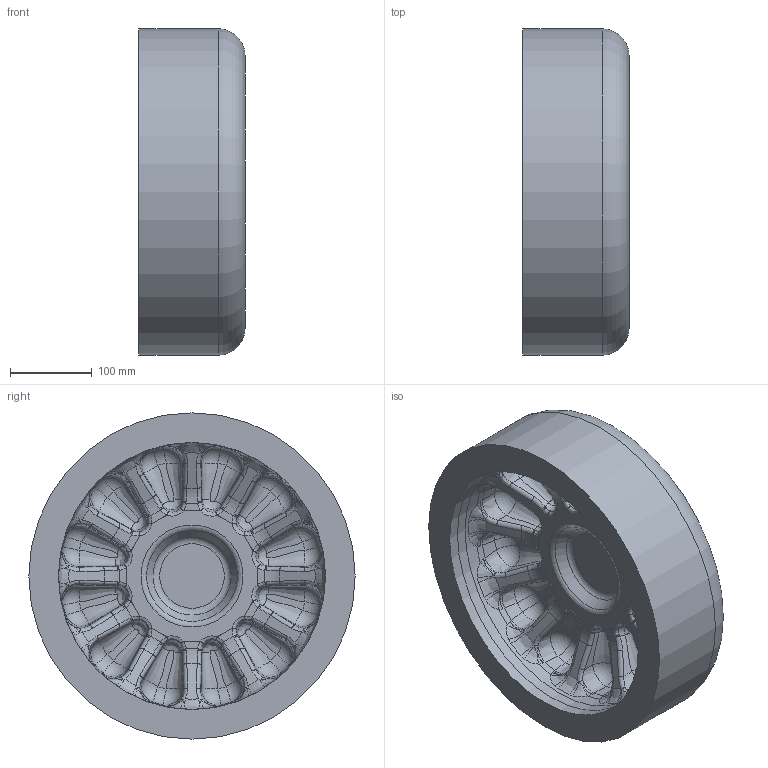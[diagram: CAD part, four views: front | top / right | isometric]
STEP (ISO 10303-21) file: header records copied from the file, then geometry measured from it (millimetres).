
FILE_DESCRIPTION(/* description */ ('Unknown'),/* implementation_level */ '2;1');
FILE_NAME(/* name */ 'CAP400C',/* time_stamp */ '2022-05-16T09:31:55+02:00',/* author */ ('Unknown'),/* organization */ ('Unknown'),/* preprocessor_version */ 'ST-DEVELOPER v18.1',/* originating_system */ 'Solid Edge',/* authorisation */ 'Unknown');
FILE_SCHEMA (('AUTOMOTIVE_DESIGN {1 0 10303 214 3 1 1}'));
Length unit declared in the file: millimetre
Products named in the file (1): CAP400C
Bounding box: 130 x 400 x 400 mm (x, y, z)
Volume: 9643567.5 mm3; surface area: 501753.3 mm2
Topology: 1 solids, 1 shells, 516 faces, 1195 edges, 635 vertices
Faces by surface type: bspline 324, plane 64, cylinder 62, torus 28, sphere 24, cone 14
Full cylindrical faces by diameter (mm): 327.4 x1, 400 x1
Entity records: 19833 total; most frequent: CARTESIAN_POINT 10432, ORIENTED_EDGE 2276, DIRECTION 1606, EDGE_CURVE 1138, AXIS2_PLACEMENT_3D 743, VERTEX_POINT 634, EDGE_LOOP 526, FACE_BOUND 526
